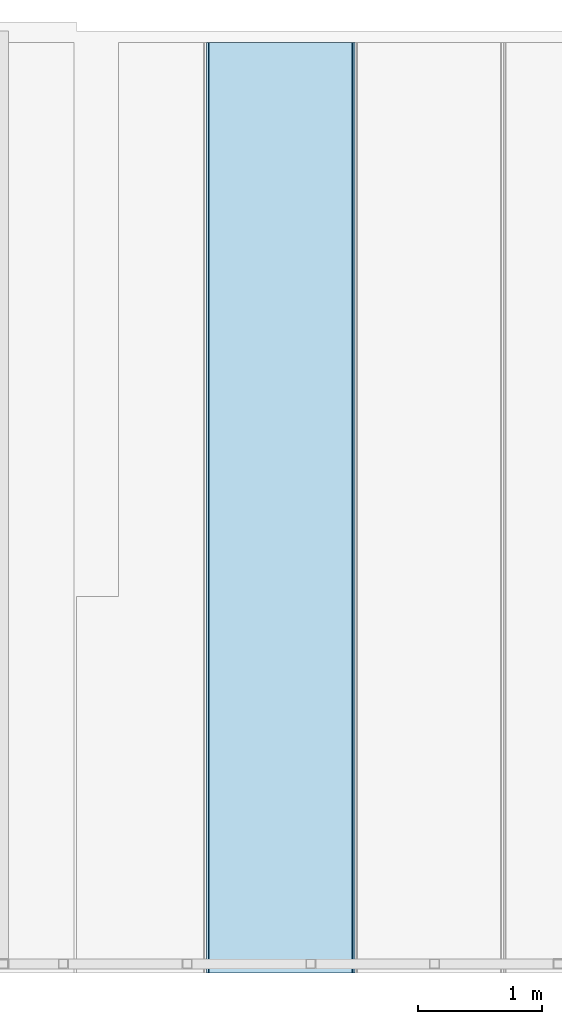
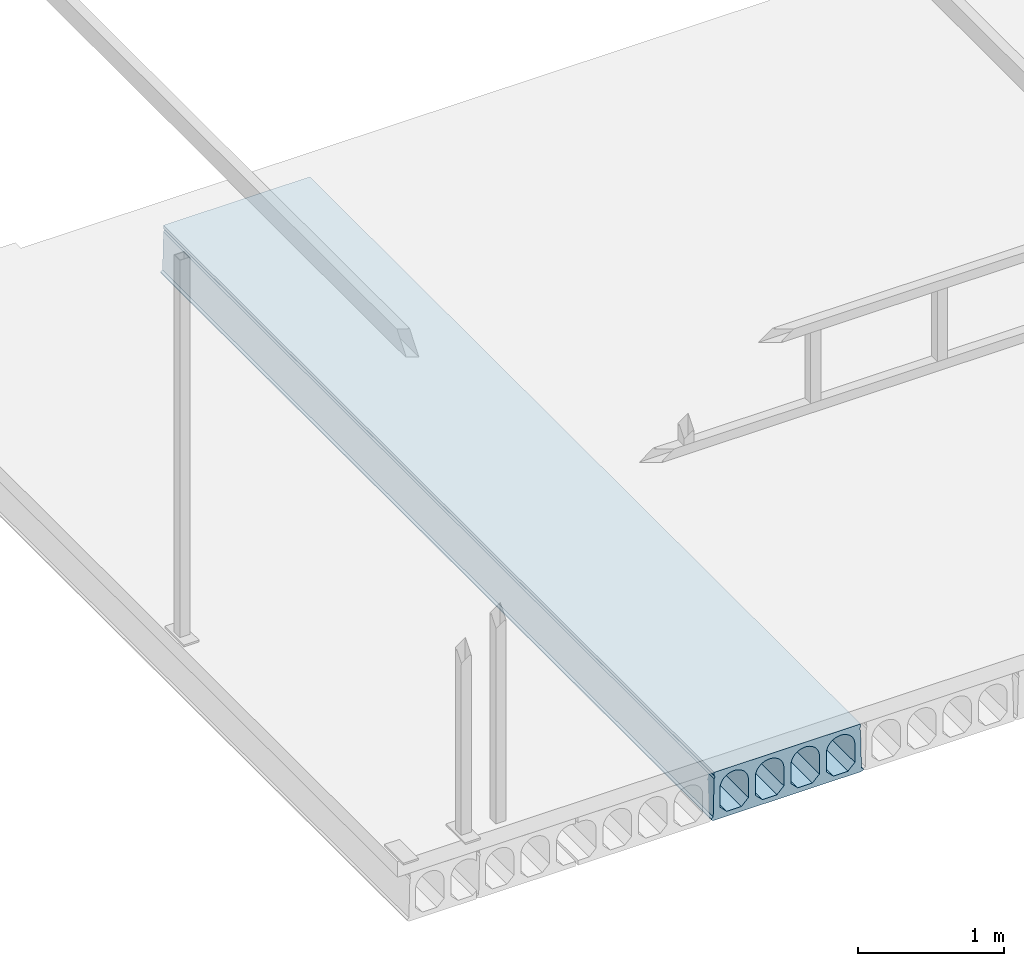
# One storey, part 8 of 20: 1 slab.
"""IFC2X3 building model written with IfcOpenShell, lengths in millimetres."""

from ifc_helpers import new_model, entity, si_unit, converted_unit, derived_unit, direction, frame, origin_with_axes, place, context, subcontext, project, spatial, faceted_brep, type_object, element, save


model = new_model("IFC2X3")

# Units and contexts
model_context = context("Model", 3, precision=0.01, world=frame((0.0, 4.29681676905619e-09, 0.0)), true_north=direction((4.01073788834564e-13, 1.0)))
plan_context = context("Plan", 3, precision=0.01, world=frame((0.0, 4.29681676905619e-09, 0.0)), true_north=direction((4.01073788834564e-13, 1.0)))
body_context = subcontext(model_context, "Body", "Model", "MODEL_VIEW")
ifc_project = project(units=[converted_unit("PLANEANGLEUNIT", "DEGREE", entity("IfcPositiveLengthMeasure", 0.0174532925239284), si_unit("PLANEANGLEUNIT", "RADIAN"), dimensions=[0, 0, 0, 0, 0, 0, 0]), si_unit("AREAUNIT", "SQUARE_METRE"), si_unit("LENGTHUNIT", "METRE", prefix="MILLI"), si_unit("MASSUNIT", "GRAM", prefix="KILO"), si_unit("POWERUNIT", "WATT"), si_unit("PRESSUREUNIT", "PASCAL", prefix="KILO"), si_unit("FORCEUNIT", "NEWTON", prefix="KILO"), si_unit("ELECTRICVOLTAGEUNIT", "VOLT"), si_unit("ELECTRICCURRENTUNIT", "AMPERE"), si_unit("THERMODYNAMICTEMPERATUREUNIT", "DEGREE_CELSIUS"), si_unit("TIMEUNIT", "SECOND"), si_unit("VOLUMEUNIT", "CUBIC_METRE"), derived_unit("LINEARVELOCITYUNIT", [(si_unit("LENGTHUNIT", "METRE"), 1), (si_unit("TIMEUNIT", "SECOND"), -1)]), derived_unit("VOLUMETRICFLOWRATEUNIT", [(si_unit("VOLUMEUNIT", "CUBIC_METRE"), 1), (si_unit("TIMEUNIT", "SECOND"), -1)]), derived_unit("THERMALTRANSMITTANCEUNIT", [(si_unit("POWERUNIT", "WATT"), 1), (si_unit("THERMODYNAMICTEMPERATUREUNIT", "KELVIN"), -1), (si_unit("AREAUNIT", "SQUARE_METRE"), -1)]), derived_unit("SOUNDPRESSUREUNIT", [(si_unit("PRESSUREUNIT", "PASCAL"), 1)])], contexts=[model_context, plan_context])

# Site, building, storey
site_placement = place(None, frame((0.0, -4.29681676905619e-09, 0.0), z_axis=(0.0, 0.0, 1.0), x_axis=(1.0, 0.0, 0.0)))
site = spatial("IfcSite", under=ifc_project, at=site_placement, Name="Gardermoen", CompositionType="ELEMENT")
building_placement = place(site_placement, frame((0.0, 4.29681676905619e-09, 0.0), z_axis=(0.0, 0.0, 1.0), x_axis=(1.0, 0.0, 0.0)))
building = spatial("IfcBuilding", under=site, at=building_placement, Name="TS", CompositionType="ELEMENT")
storey_placement = place(building_placement, origin_with_axes())
storey = spatial("IfcBuildingStorey", under=building, at=storey_placement, Name="D", CompositionType="ELEMENT", Elevation=0.0)

# Slab
slab_type = type_object("IfcSlabType", Name="HD400", PredefinedType="NOTDEFINED")
slab_placement = place(storey_placement, frame((597999.999766, 396739.995625, 203600.0), z_axis=(0.0, 0.0, 1.0), x_axis=(0.0, 1.0, 0.0)))
element("IfcSlab", 1, at=slab_placement, inside=storey, type_object=slab_type, Name="HULLDEKKE", ObjectType="HD400", PredefinedType="FLOOR", context=body_context, shape_type="Brep", body=[
    faceted_brep([(996.504375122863, 600.0, -180.0), (996.504375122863, 600.0, -190.0), (8520.0, 600.0, -190.0), (8520.0, 600.0, -180.0), (996.504375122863, 585.0, -170.0), (8520.0, 585.0, -170.0), (996.504375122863, 577.5, 145.0), (8520.0, 577.5, 145.0), (996.504375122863, 570.0, 160.0), (8520.0, 570.0, 160.0), (996.504375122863, 577.5, 175.0), (8520.0, 577.5, 175.0), (996.504375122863, 577.5, 200.0), (8520.0, 577.5, 200.0), (996.504375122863, -577.5, 200.0), (8520.0, -577.5, 200.0), (996.504375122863, -577.5, 175.0), (8520.0, -577.5, 175.0), (996.504375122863, -570.0, 160.0), (8520.0, -570.0, 160.0), (996.504375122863, -577.5, 145.0), (8520.0, -577.5, 145.0), (996.504375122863, -585.0, -170.0), (8520.0, -585.0, -170.0), (996.504375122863, -600.0, -180.0), (8520.0, -600.0, -180.0), (996.504375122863, -600.0, -190.0), (8520.0, -600.0, -190.0), (996.504375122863, -583.380004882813, -200.0), (8520.0, -583.380004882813, -200.0), (996.504375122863, 583.380004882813, -200.0), (8520.0, 583.380004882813, -200.0), (996.504375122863, -477.5, -160.0), (996.504375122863, -362.5, -160.0), (8520.0, -362.5, -160.0), (8520.0, -477.5, -160.0), (996.504375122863, -532.5, -105.0), (8520.0, -532.5, -105.0), (996.504375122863, -532.5, 47.5), (8520.0, -532.5, 47.5), (996.504375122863, -532.115755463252, 56.7901763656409), (8520.0, -532.115755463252, 56.7901763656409), (996.504375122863, -530.965646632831, 66.0168914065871), (8520.0, -530.965646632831, 66.0168914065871), (996.504375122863, -529.057529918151, 75.1171173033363), (8520.0, -529.057529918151, 75.1171173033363), (996.504375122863, -526.404439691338, 84.028690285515), (8520.0, -526.404439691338, 84.028690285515), (996.504375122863, -523.024499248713, 92.6907352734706), (8520.0, -523.024499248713, 92.6907352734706), (996.504375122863, -518.940797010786, 101.044081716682), (8520.0, -518.940797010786, 101.044081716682), (996.504375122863, -514.181228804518, 109.031667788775), (8520.0, -514.181228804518, 109.031667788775), (996.504375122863, -508.778307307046, 116.598930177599), (8520.0, -508.778307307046, 116.598930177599), (996.504375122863, -502.768939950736, 123.694176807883), (8520.0, -502.768939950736, 123.694176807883), (996.504375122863, -496.194176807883, 130.268939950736), (8520.0, -496.194176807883, 130.268939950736), (996.504375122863, -489.098930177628, 136.278307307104), (8520.0, -489.098930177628, 136.278307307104), (996.504375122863, -481.531667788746, 141.681228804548), (8520.0, -481.531667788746, 141.681228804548), (996.504375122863, -473.544081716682, 146.440797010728), (8520.0, -473.544081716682, 146.440797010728), (996.504375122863, -465.190735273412, 150.524499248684), (8520.0, -465.190735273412, 150.524499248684), (996.504375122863, -456.528690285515, 153.904439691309), (8520.0, -456.528690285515, 153.904439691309), (996.504375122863, -447.617117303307, 156.55752991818), (8520.0, -447.617117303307, 156.55752991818), (996.504375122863, -438.516891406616, 158.465646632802), (8520.0, -438.516891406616, 158.465646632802), (996.504375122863, -429.290176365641, 159.615755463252), (8520.0, -429.290176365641, 159.615755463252), (996.504375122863, -420.0, 160.0), (8520.0, -420.0, 160.0), (996.504375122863, -410.709823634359, 159.615755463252), (8520.0, -410.709823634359, 159.615755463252), (996.504375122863, -401.483108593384, 158.465646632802), (8520.0, -401.483108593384, 158.465646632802), (996.504375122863, -392.382882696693, 156.55752991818), (8520.0, -392.382882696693, 156.55752991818), (996.504375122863, -383.471309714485, 153.904439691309), (8520.0, -383.471309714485, 153.904439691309), (996.504375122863, -374.809264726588, 150.524499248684), (8520.0, -374.809264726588, 150.524499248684), (996.504375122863, -366.455918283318, 146.440797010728), (8520.0, -366.455918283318, 146.440797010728), (996.504375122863, -358.468332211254, 141.681228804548), (8520.0, -358.468332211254, 141.681228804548), (996.504375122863, -350.901069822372, 136.278307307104), (8520.0, -350.901069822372, 136.278307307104), (996.504375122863, -343.805823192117, 130.268939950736), (8520.0, -343.805823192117, 130.268939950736), (996.504375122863, -337.231060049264, 123.694176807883), (8520.0, -337.231060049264, 123.694176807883), (996.504375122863, -331.221692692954, 116.598930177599), (8520.0, -331.221692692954, 116.598930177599), (996.504375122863, -325.818771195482, 109.031667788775), (8520.0, -325.818771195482, 109.031667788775), (996.504375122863, -321.059202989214, 101.044081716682), (8520.0, -321.059202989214, 101.044081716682), (996.504375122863, -316.975500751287, 92.6907352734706), (8520.0, -316.975500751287, 92.6907352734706), (996.504375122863, -313.595560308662, 84.028690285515), (8520.0, -313.595560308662, 84.028690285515), (996.504375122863, -310.942470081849, 75.1171173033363), (8520.0, -310.942470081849, 75.1171173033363), (996.504375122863, -309.034353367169, 66.0168914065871), (8520.0, -309.034353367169, 66.0168914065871), (996.504375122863, -307.884244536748, 56.7901763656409), (8520.0, -307.884244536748, 56.7901763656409), (996.504375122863, -307.5, 47.5), (8520.0, -307.5, 47.5), (996.504375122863, -307.5, -105.0), (8520.0, -307.5, -105.0), (996.504375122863, -197.5, -160.0), (996.504375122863, -82.5, -160.0), (8520.0, -82.5, -160.0), (8520.0, -197.5, -160.0), (996.504375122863, -252.5, -105.0), (8520.0, -252.5, -105.0), (996.504375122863, -252.5, 47.5), (8520.0, -252.5, 47.5), (996.504375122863, -252.115755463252, 56.7901763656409), (8520.0, -252.115755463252, 56.7901763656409), (996.504375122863, -250.965646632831, 66.0168914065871), (8520.0, -250.965646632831, 66.0168914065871), (996.504375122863, -249.057529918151, 75.1171173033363), (8520.0, -249.057529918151, 75.1171173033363), (996.504375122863, -246.404439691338, 84.028690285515), (8520.0, -246.404439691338, 84.028690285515), (996.504375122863, -243.024499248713, 92.6907352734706), (8520.0, -243.024499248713, 92.6907352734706), (996.504375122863, -238.940797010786, 101.044081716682), (8520.0, -238.940797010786, 101.044081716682), (996.504375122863, -234.181228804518, 109.031667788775), (8520.0, -234.181228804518, 109.031667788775), (996.504375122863, -228.778307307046, 116.598930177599), (8520.0, -228.778307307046, 116.598930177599), (996.504375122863, -222.768939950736, 123.694176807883), (8520.0, -222.768939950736, 123.694176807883), (996.504375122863, -216.194176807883, 130.268939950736), (8520.0, -216.194176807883, 130.268939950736), (996.504375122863, -209.098930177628, 136.278307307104), (8520.0, -209.098930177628, 136.278307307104), (996.504375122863, -201.531667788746, 141.681228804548), (8520.0, -201.531667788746, 141.681228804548), (996.504375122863, -193.544081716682, 146.440797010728), (8520.0, -193.544081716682, 146.440797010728), (996.504375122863, -185.190735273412, 150.524499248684), (8520.0, -185.190735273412, 150.524499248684), (996.504375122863, -176.528690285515, 153.904439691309), (8520.0, -176.528690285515, 153.904439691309), (996.504375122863, -167.617117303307, 156.55752991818), (8520.0, -167.617117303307, 156.55752991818), (996.504375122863, -158.516891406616, 158.465646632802), (8520.0, -158.516891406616, 158.465646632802), (996.504375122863, -149.290176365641, 159.615755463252), (8520.0, -149.290176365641, 159.615755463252), (996.504375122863, -140.0, 160.0), (8520.0, -140.0, 160.0), (996.504375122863, -130.709823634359, 159.615755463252), (8520.0, -130.709823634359, 159.615755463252), (996.504375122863, -121.483108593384, 158.465646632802), (8520.0, -121.483108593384, 158.465646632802), (996.504375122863, -112.382882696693, 156.55752991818), (8520.0, -112.382882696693, 156.55752991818), (996.504375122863, -103.471309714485, 153.904439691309), (8520.0, -103.471309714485, 153.904439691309), (996.504375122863, -94.8092647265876, 150.524499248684), (8520.0, -94.8092647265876, 150.524499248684), (996.504375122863, -86.4559182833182, 146.440797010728), (8520.0, -86.4559182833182, 146.440797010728), (996.504375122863, -78.4683322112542, 141.681228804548), (8520.0, -78.4683322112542, 141.681228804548), (996.504375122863, -70.9010698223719, 136.278307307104), (8520.0, -70.9010698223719, 136.278307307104), (996.504375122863, -63.8058231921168, 130.268939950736), (8520.0, -63.8058231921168, 130.268939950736), (996.504375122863, -57.2310600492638, 123.694176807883), (8520.0, -57.2310600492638, 123.694176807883), (996.504375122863, -51.2216926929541, 116.598930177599), (8520.0, -51.2216926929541, 116.598930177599), (996.504375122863, -45.8187711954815, 109.031667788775), (8520.0, -45.8187711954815, 109.031667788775), (996.504375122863, -41.0592029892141, 101.044081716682), (8520.0, -41.0592029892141, 101.044081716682), (996.504375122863, -36.9755007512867, 92.6907352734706), (8520.0, -36.9755007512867, 92.6907352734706), (996.504375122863, -33.5955603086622, 84.028690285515), (8520.0, -33.5955603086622, 84.028690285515), (996.504375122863, -30.942470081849, 75.1171173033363), (8520.0, -30.942470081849, 75.1171173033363), (996.504375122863, -29.0343533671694, 66.0168914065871), (8520.0, -29.0343533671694, 66.0168914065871), (996.504375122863, -27.8842445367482, 56.7901763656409), (8520.0, -27.8842445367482, 56.7901763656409), (996.504375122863, -27.5, 47.5), (8520.0, -27.5, 47.5), (996.504375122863, -27.5, -105.0), (8520.0, -27.5, -105.0), (996.504375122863, 82.5, -160.0), (996.504375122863, 197.5, -160.0), (8520.0, 197.5, -160.0), (8520.0, 82.5, -160.0), (996.504375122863, 27.5, -105.0), (8520.0, 27.5, -105.0), (996.504375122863, 27.5, 47.5), (8520.0, 27.5, 47.5), (996.504375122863, 27.8842445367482, 56.7901763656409), (8520.0, 27.8842445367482, 56.7901763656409), (996.504375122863, 29.0343533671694, 66.0168914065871), (8520.0, 29.0343533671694, 66.0168914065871), (996.504375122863, 30.942470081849, 75.1171173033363), (8520.0, 30.942470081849, 75.1171173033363), (996.504375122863, 33.5955603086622, 84.028690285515), (8520.0, 33.5955603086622, 84.028690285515), (996.504375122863, 36.9755007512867, 92.6907352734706), (8520.0, 36.9755007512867, 92.6907352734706), (996.504375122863, 41.0592029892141, 101.044081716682), (8520.0, 41.0592029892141, 101.044081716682), (996.504375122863, 45.8187711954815, 109.031667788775), (8520.0, 45.8187711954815, 109.031667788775), (996.504375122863, 51.2216926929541, 116.598930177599), (8520.0, 51.2216926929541, 116.598930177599), (996.504375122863, 57.2310600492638, 123.694176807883), (8520.0, 57.2310600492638, 123.694176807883), (996.504375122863, 63.8058231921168, 130.268939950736), (8520.0, 63.8058231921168, 130.268939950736), (996.504375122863, 70.9010698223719, 136.278307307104), (8520.0, 70.9010698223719, 136.278307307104), (996.504375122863, 78.4683322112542, 141.681228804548), (8520.0, 78.4683322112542, 141.681228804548), (996.504375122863, 86.4559182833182, 146.440797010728), (8520.0, 86.4559182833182, 146.440797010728), (996.504375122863, 94.8092647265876, 150.524499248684), (8520.0, 94.8092647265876, 150.524499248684), (996.504375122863, 103.471309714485, 153.904439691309), (8520.0, 103.471309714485, 153.904439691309), (996.504375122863, 112.382882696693, 156.55752991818), (8520.0, 112.382882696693, 156.55752991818), (996.504375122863, 121.483108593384, 158.465646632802), (8520.0, 121.483108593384, 158.465646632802), (996.504375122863, 130.709823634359, 159.615755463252), (8520.0, 130.709823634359, 159.615755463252), (996.504375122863, 140.0, 160.0), (8520.0, 140.0, 160.0), (996.504375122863, 149.290176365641, 159.615755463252), (8520.0, 149.290176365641, 159.615755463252), (996.504375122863, 158.516891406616, 158.465646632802), (8520.0, 158.516891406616, 158.465646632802), (996.504375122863, 167.617117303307, 156.55752991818), (8520.0, 167.617117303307, 156.55752991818), (996.504375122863, 176.528690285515, 153.904439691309), (8520.0, 176.528690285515, 153.904439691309), (996.504375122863, 185.190735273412, 150.524499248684), (8520.0, 185.190735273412, 150.524499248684), (996.504375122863, 193.544081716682, 146.440797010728), (8520.0, 193.544081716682, 146.440797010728), (996.504375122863, 201.531667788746, 141.681228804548), (8520.0, 201.531667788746, 141.681228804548), (996.504375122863, 209.098930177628, 136.278307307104), (8520.0, 209.098930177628, 136.278307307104), (996.504375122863, 216.194176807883, 130.268939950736), (8520.0, 216.194176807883, 130.268939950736), (996.504375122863, 222.768939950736, 123.694176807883), (8520.0, 222.768939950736, 123.694176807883), (996.504375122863, 228.778307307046, 116.598930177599), (8520.0, 228.778307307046, 116.598930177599), (996.504375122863, 234.181228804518, 109.031667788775), (8520.0, 234.181228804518, 109.031667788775), (996.504375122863, 238.940797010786, 101.044081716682), (8520.0, 238.940797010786, 101.044081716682), (996.504375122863, 243.024499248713, 92.6907352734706), (8520.0, 243.024499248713, 92.6907352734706), (996.504375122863, 246.404439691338, 84.028690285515), (8520.0, 246.404439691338, 84.028690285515), (996.504375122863, 249.057529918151, 75.1171173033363), (8520.0, 249.057529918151, 75.1171173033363), (996.504375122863, 250.965646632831, 66.0168914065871), (8520.0, 250.965646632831, 66.0168914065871), (996.504375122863, 252.115755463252, 56.7901763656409), (8520.0, 252.115755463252, 56.7901763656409), (996.504375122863, 252.5, 47.5), (8520.0, 252.5, 47.5), (996.504375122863, 252.5, -105.0), (8520.0, 252.5, -105.0), (996.504375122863, 362.5, -160.0), (996.504375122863, 477.5, -160.0), (8520.0, 477.5, -160.0), (8520.0, 362.5, -160.0), (996.504375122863, 307.5, -105.0), (8520.0, 307.5, -105.0), (996.504375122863, 307.5, 47.5), (8520.0, 307.5, 47.5), (996.504375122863, 307.884244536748, 56.7901763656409), (8520.0, 307.884244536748, 56.7901763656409), (996.504375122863, 309.034353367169, 66.0168914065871), (8520.0, 309.034353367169, 66.0168914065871), (996.504375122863, 310.942470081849, 75.1171173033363), (8520.0, 310.942470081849, 75.1171173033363), (996.504375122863, 313.595560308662, 84.028690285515), (8520.0, 313.595560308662, 84.028690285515), (996.504375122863, 316.975500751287, 92.6907352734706), (8520.0, 316.975500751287, 92.6907352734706), (996.504375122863, 321.059202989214, 101.044081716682), (8520.0, 321.059202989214, 101.044081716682), (996.504375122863, 325.818771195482, 109.031667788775), (8520.0, 325.818771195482, 109.031667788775), (996.504375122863, 331.221692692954, 116.598930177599), (8520.0, 331.221692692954, 116.598930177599), (996.504375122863, 337.231060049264, 123.694176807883), (8520.0, 337.231060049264, 123.694176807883), (996.504375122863, 343.805823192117, 130.268939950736), (8520.0, 343.805823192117, 130.268939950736), (996.504375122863, 350.901069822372, 136.278307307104), (8520.0, 350.901069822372, 136.278307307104), (996.504375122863, 358.468332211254, 141.681228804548), (8520.0, 358.468332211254, 141.681228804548), (996.504375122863, 366.455918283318, 146.440797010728), (8520.0, 366.455918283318, 146.440797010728), (996.504375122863, 374.809264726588, 150.524499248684), (8520.0, 374.809264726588, 150.524499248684), (996.504375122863, 383.471309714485, 153.904439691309), (8520.0, 383.471309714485, 153.904439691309), (996.504375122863, 392.382882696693, 156.55752991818), (8520.0, 392.382882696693, 156.55752991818), (996.504375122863, 401.483108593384, 158.465646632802), (8520.0, 401.483108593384, 158.465646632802), (996.504375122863, 410.709823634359, 159.615755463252), (8520.0, 410.709823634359, 159.615755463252), (996.504375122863, 420.0, 160.0), (8520.0, 420.0, 160.0), (996.504375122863, 429.290176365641, 159.615755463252), (8520.0, 429.290176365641, 159.615755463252), (996.504375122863, 438.516891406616, 158.465646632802), (8520.0, 438.516891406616, 158.465646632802), (996.504375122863, 447.617117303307, 156.55752991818), (8520.0, 447.617117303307, 156.55752991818), (996.504375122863, 456.528690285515, 153.904439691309), (8520.0, 456.528690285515, 153.904439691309), (996.504375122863, 465.190735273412, 150.524499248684), (8520.0, 465.190735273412, 150.524499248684), (996.504375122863, 473.544081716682, 146.440797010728), (8520.0, 473.544081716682, 146.440797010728), (996.504375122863, 481.531667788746, 141.681228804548), (8520.0, 481.531667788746, 141.681228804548), (996.504375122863, 489.098930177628, 136.278307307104), (8520.0, 489.098930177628, 136.278307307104), (996.504375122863, 496.194176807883, 130.268939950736), (8520.0, 496.194176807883, 130.268939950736), (996.504375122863, 502.768939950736, 123.694176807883), (8520.0, 502.768939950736, 123.694176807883), (996.504375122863, 508.778307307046, 116.598930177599), (8520.0, 508.778307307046, 116.598930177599), (996.504375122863, 514.181228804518, 109.031667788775), (8520.0, 514.181228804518, 109.031667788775), (996.504375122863, 518.940797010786, 101.044081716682), (8520.0, 518.940797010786, 101.044081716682), (996.504375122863, 523.024499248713, 92.6907352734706), (8520.0, 523.024499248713, 92.6907352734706), (996.504375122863, 526.404439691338, 84.028690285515), (8520.0, 526.404439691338, 84.028690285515), (996.504375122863, 529.057529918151, 75.1171173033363), (8520.0, 529.057529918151, 75.1171173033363), (996.504375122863, 530.965646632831, 66.0168914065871), (8520.0, 530.965646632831, 66.0168914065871), (996.504375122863, 532.115755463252, 56.7901763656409), (8520.0, 532.115755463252, 56.7901763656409), (996.504375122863, 532.5, 47.5), (8520.0, 532.5, 47.5), (996.504375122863, 532.5, -105.0), (8520.0, 532.5, -105.0)], [[[0, 1, 2, 3]], [[4, 0, 3, 5]], [[6, 4, 5, 7]], [[8, 6, 7, 9]], [[10, 8, 9, 11]], [[12, 10, 11, 13]], [[14, 12, 13, 15]], [[16, 14, 15, 17]], [[18, 16, 17, 19]], [[20, 18, 19, 21]], [[22, 20, 21, 23]], [[24, 22, 23, 25]], [[26, 24, 25, 27]], [[28, 26, 27, 29]], [[30, 28, 29, 31]], [[1, 30, 31, 2]], [[32, 33, 34, 35]], [[36, 32, 35, 37]], [[38, 36, 37, 39]], [[40, 38, 39, 41]], [[42, 40, 41, 43]], [[44, 42, 43, 45]], [[46, 44, 45, 47]], [[48, 46, 47, 49]], [[50, 48, 49, 51]], [[52, 50, 51, 53]], [[54, 52, 53, 55]], [[56, 54, 55, 57]], [[58, 56, 57, 59]], [[60, 58, 59, 61]], [[62, 60, 61, 63]], [[64, 62, 63, 65]], [[66, 64, 65, 67]], [[68, 66, 67, 69]], [[70, 68, 69, 71]], [[72, 70, 71, 73]], [[74, 72, 73, 75]], [[76, 74, 75, 77]], [[78, 76, 77, 79]], [[80, 78, 79, 81]], [[82, 80, 81, 83]], [[84, 82, 83, 85]], [[86, 84, 85, 87]], [[88, 86, 87, 89]], [[90, 88, 89, 91]], [[92, 90, 91, 93]], [[94, 92, 93, 95]], [[96, 94, 95, 97]], [[98, 96, 97, 99]], [[100, 98, 99, 101]], [[102, 100, 101, 103]], [[104, 102, 103, 105]], [[106, 104, 105, 107]], [[108, 106, 107, 109]], [[110, 108, 109, 111]], [[112, 110, 111, 113]], [[114, 112, 113, 115]], [[116, 114, 115, 117]], [[33, 116, 117, 34]], [[118, 119, 120, 121]], [[122, 118, 121, 123]], [[124, 122, 123, 125]], [[126, 124, 125, 127]], [[128, 126, 127, 129]], [[130, 128, 129, 131]], [[132, 130, 131, 133]], [[134, 132, 133, 135]], [[136, 134, 135, 137]], [[138, 136, 137, 139]], [[140, 138, 139, 141]], [[142, 140, 141, 143]], [[144, 142, 143, 145]], [[146, 144, 145, 147]], [[148, 146, 147, 149]], [[150, 148, 149, 151]], [[152, 150, 151, 153]], [[154, 152, 153, 155]], [[156, 154, 155, 157]], [[158, 156, 157, 159]], [[160, 158, 159, 161]], [[162, 160, 161, 163]], [[164, 162, 163, 165]], [[166, 164, 165, 167]], [[168, 166, 167, 169]], [[170, 168, 169, 171]], [[172, 170, 171, 173]], [[174, 172, 173, 175]], [[176, 174, 175, 177]], [[178, 176, 177, 179]], [[180, 178, 179, 181]], [[182, 180, 181, 183]], [[184, 182, 183, 185]], [[186, 184, 185, 187]], [[188, 186, 187, 189]], [[190, 188, 189, 191]], [[192, 190, 191, 193]], [[194, 192, 193, 195]], [[196, 194, 195, 197]], [[198, 196, 197, 199]], [[200, 198, 199, 201]], [[202, 200, 201, 203]], [[119, 202, 203, 120]], [[204, 205, 206, 207]], [[208, 204, 207, 209]], [[210, 208, 209, 211]], [[212, 210, 211, 213]], [[214, 212, 213, 215]], [[216, 214, 215, 217]], [[218, 216, 217, 219]], [[220, 218, 219, 221]], [[222, 220, 221, 223]], [[224, 222, 223, 225]], [[226, 224, 225, 227]], [[228, 226, 227, 229]], [[230, 228, 229, 231]], [[232, 230, 231, 233]], [[234, 232, 233, 235]], [[236, 234, 235, 237]], [[238, 236, 237, 239]], [[240, 238, 239, 241]], [[242, 240, 241, 243]], [[244, 242, 243, 245]], [[246, 244, 245, 247]], [[248, 246, 247, 249]], [[250, 248, 249, 251]], [[252, 250, 251, 253]], [[254, 252, 253, 255]], [[256, 254, 255, 257]], [[258, 256, 257, 259]], [[260, 258, 259, 261]], [[262, 260, 261, 263]], [[264, 262, 263, 265]], [[266, 264, 265, 267]], [[268, 266, 267, 269]], [[270, 268, 269, 271]], [[272, 270, 271, 273]], [[274, 272, 273, 275]], [[276, 274, 275, 277]], [[278, 276, 277, 279]], [[280, 278, 279, 281]], [[282, 280, 281, 283]], [[284, 282, 283, 285]], [[286, 284, 285, 287]], [[288, 286, 287, 289]], [[205, 288, 289, 206]], [[290, 291, 292, 293]], [[294, 290, 293, 295]], [[296, 294, 295, 297]], [[298, 296, 297, 299]], [[300, 298, 299, 301]], [[302, 300, 301, 303]], [[304, 302, 303, 305]], [[306, 304, 305, 307]], [[308, 306, 307, 309]], [[310, 308, 309, 311]], [[312, 310, 311, 313]], [[314, 312, 313, 315]], [[316, 314, 315, 317]], [[318, 316, 317, 319]], [[320, 318, 319, 321]], [[322, 320, 321, 323]], [[324, 322, 323, 325]], [[326, 324, 325, 327]], [[328, 326, 327, 329]], [[330, 328, 329, 331]], [[332, 330, 331, 333]], [[334, 332, 333, 335]], [[336, 334, 335, 337]], [[338, 336, 337, 339]], [[340, 338, 339, 341]], [[342, 340, 341, 343]], [[344, 342, 343, 345]], [[346, 344, 345, 347]], [[348, 346, 347, 349]], [[350, 348, 349, 351]], [[352, 350, 351, 353]], [[354, 352, 353, 355]], [[356, 354, 355, 357]], [[358, 356, 357, 359]], [[360, 358, 359, 361]], [[362, 360, 361, 363]], [[364, 362, 363, 365]], [[366, 364, 365, 367]], [[368, 366, 367, 369]], [[370, 368, 369, 371]], [[372, 370, 371, 373]], [[374, 372, 373, 375]], [[291, 374, 375, 292]], [[3, 2, 31, 29, 27, 25, 23, 21, 19, 17, 15, 13, 11, 9, 7, 5], [293, 292, 375, 373, 371, 369, 367, 365, 363, 361, 359, 357, 355, 353, 351, 349, 347, 345, 343, 341, 339, 337, 335, 333, 331, 329, 327, 325, 323, 321, 319, 317, 315, 313, 311, 309, 307, 305, 303, 301, 299, 297, 295], [207, 206, 289, 287, 285, 283, 281, 279, 277, 275, 273, 271, 269, 267, 265, 263, 261, 259, 257, 255, 253, 251, 249, 247, 245, 243, 241, 239, 237, 235, 233, 231, 229, 227, 225, 223, 221, 219, 217, 215, 213, 211, 209], [121, 120, 203, 201, 199, 197, 195, 193, 191, 189, 187, 185, 183, 181, 179, 177, 175, 173, 171, 169, 167, 165, 163, 161, 159, 157, 155, 153, 151, 149, 147, 145, 143, 141, 139, 137, 135, 133, 131, 129, 127, 125, 123], [35, 34, 117, 115, 113, 111, 109, 107, 105, 103, 101, 99, 97, 95, 93, 91, 89, 87, 85, 83, 81, 79, 77, 75, 73, 71, 69, 67, 65, 63, 61, 59, 57, 55, 53, 51, 49, 47, 45, 43, 41, 39, 37]], [[4, 6, 8, 10, 12, 14, 16, 18, 20, 22, 24, 26, 28, 30, 1, 0], [36, 38, 40, 42, 44, 46, 48, 50, 52, 54, 56, 58, 60, 62, 64, 66, 68, 70, 72, 74, 76, 78, 80, 82, 84, 86, 88, 90, 92, 94, 96, 98, 100, 102, 104, 106, 108, 110, 112, 114, 116, 33, 32], [122, 124, 126, 128, 130, 132, 134, 136, 138, 140, 142, 144, 146, 148, 150, 152, 154, 156, 158, 160, 162, 164, 166, 168, 170, 172, 174, 176, 178, 180, 182, 184, 186, 188, 190, 192, 194, 196, 198, 200, 202, 119, 118], [208, 210, 212, 214, 216, 218, 220, 222, 224, 226, 228, 230, 232, 234, 236, 238, 240, 242, 244, 246, 248, 250, 252, 254, 256, 258, 260, 262, 264, 266, 268, 270, 272, 274, 276, 278, 280, 282, 284, 286, 288, 205, 204], [294, 296, 298, 300, 302, 304, 306, 308, 310, 312, 314, 316, 318, 320, 322, 324, 326, 328, 330, 332, 334, 336, 338, 340, 342, 344, 346, 348, 350, 352, 354, 356, 358, 360, 362, 364, 366, 368, 370, 372, 374, 291, 290]]], orient=[[False], [False], [False], [False], [False], [False], [False], [False], [False], [False], [False], [False], [False], [False], [False], [False], [False], [False], [False], [False], [False], [False], [False], [False], [False], [False], [False], [False], [False], [False], [False], [False], [False], [False], [False], [False], [False], [False], [False], [False], [False], [False], [False], [False], [False], [False], [False], [False], [False], [False], [False], [False], [False], [False], [False], [False], [False], [False], [False], [False], [False], [False], [False], [False], [False], [False], [False], [False], [False], [False], [False], [False], [False], [False], [False], [False], [False], [False], [False], [False], [False], [False], [False], [False], [False], [False], [False], [False], [False], [False], [False], [False], [False], [False], [False], [False], [False], [False], [False], [False], [False], [False], [False], [False], [False], [False], [False], [False], [False], [False], [False], [False], [False], [False], [False], [False], [False], [False], [False], [False], [False], [False], [False], [False], [False], [False], [False], [False], [False], [False], [False], [False], [False], [False], [False], [False], [False], [False], [False], [False], [False], [False], [False], [False], [False], [False], [False], [False], [False], [False], [False], [False], [False], [False], [False], [False], [False], [False], [False], [False], [False], [False], [False], [False], [False], [False], [False], [False], [False], [False], [False], [False], [False], [False], [False], [False], [False], [False], [False], [False], [False], [False], [False], [False], [False], [False], [False], [False], [False, False, False, False, False], [False, False, False, False, False]]),
])

save(model, "model.ifc")
